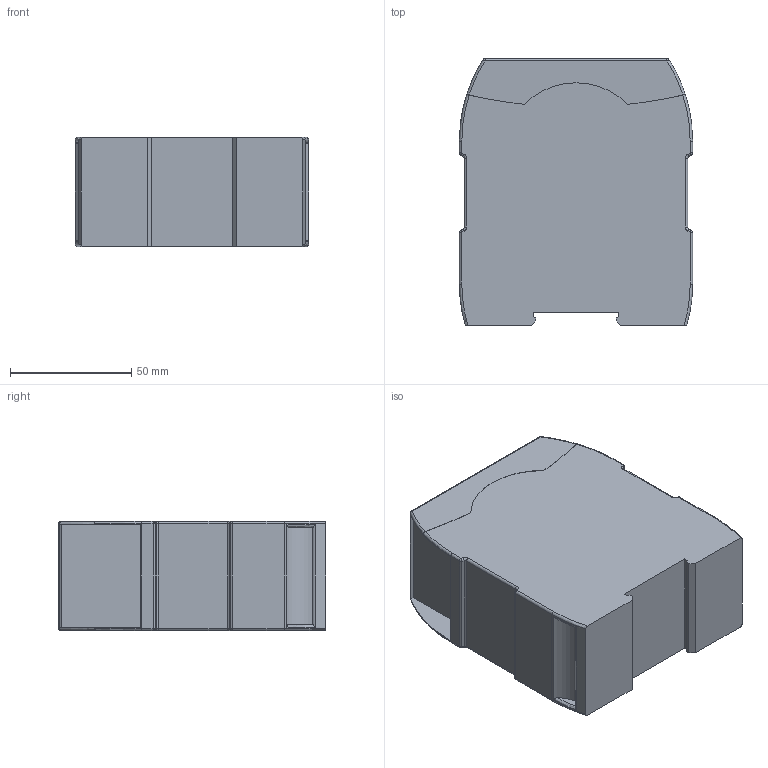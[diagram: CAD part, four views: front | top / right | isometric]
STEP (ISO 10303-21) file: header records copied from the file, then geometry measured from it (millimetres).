
FILE_DESCRIPTION((''),'2;1');
FILE_NAME('2023043','2021-06-08T06:11:24',('l.merz'),(''),'CREO PARAMETRIC BY PTC INC, 2019292','CREO PARAMETRIC BY PTC INC, 2019292','');
FILE_SCHEMA(('AUTOMOTIVE_DESIGN { 1 0 10303 214 1 1 1 1 }'));
Length unit declared in the file: millimetre
Products named in the file (1): 2023043
Bounding box: 96 x 110.2 x 45 mm (x, y, z)
Volume: 425380.9 mm3; surface area: 40453.5 mm2
Topology: 1 solids, 1 shells, 159 faces, 400 edges, 268 vertices
Faces by surface type: plane 75, cylinder 48, torus 24, sphere 12
Entity records: 6428 total; most frequent: CARTESIAN_POINT 952, DIRECTION 836, ORIENTED_EDGE 768, PRESENTATION_STYLE_ASSIGNMENT 405, STYLED_ITEM 401, CURVE_STYLE 400, EDGE_CURVE 384, AXIS2_PLACEMENT_3D 296
